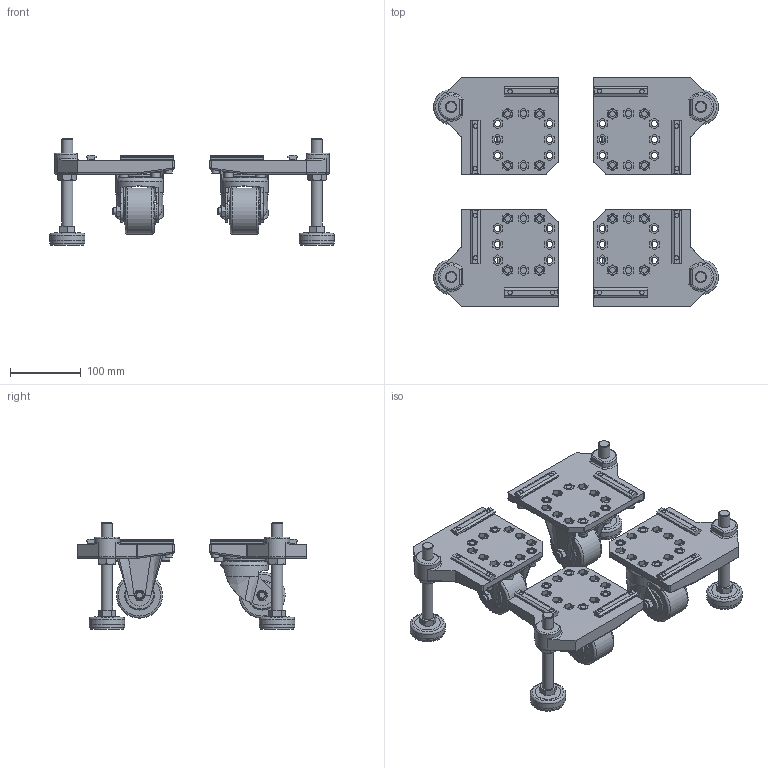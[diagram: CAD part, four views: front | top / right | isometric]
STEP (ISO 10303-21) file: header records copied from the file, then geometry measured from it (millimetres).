
FILE_DESCRIPTION(('STEP AP214'),'1');
FILE_NAME('ASFKB-M16_L150.stp','2023-07-03T02:14:40',(' '),(' '),'Spatial InterOp 3D',' ',' ');
FILE_SCHEMA(('AUTOMOTIVE_DESIGN { 1 0 10303 214 1 1 1 1 }'));
Length unit declared in the file: millimetre
Products named in the file (155): ASFKB-M16_1/4; NFM6-P60; t3M6PW; M6SW; ねじ: 穴付き - M6.0 x 20.0; ねじ: 穴付き - M8.0 x 16.0; M8PW; M8SW; CA65-K; CA65-Fﾎﾞﾃﾞｨｰ; CA65車輪; M8NT; APDC_M16R; AJ1650L150; M16ﾅｯﾄ; ASFKB-M16_L150; APDC_M16L; ASFFB-M16_1/4; CA65-F; CA65Fﾌﾟﾚｰﾄ
Assembly tree (154 placements, depth 4):
  ASFKB-M16_L150
    ASFKB-M16_1/4
      NFM6-P60
      t3M6PW
      M6SW
      ねじ: 穴付き - M6.0 x 20.0
      t3M6PW
      M6SW
      ねじ: 穴付き - M6.0 x 20.0
      NFM6-P60
      t3M6PW
      M6SW
      ねじ: 穴付き - M6.0 x 20.0
      t3M6PW
      M6SW
      ねじ: 穴付き - M6.0 x 20.0
      ねじ: 穴付き - M8.0 x 16.0
      ねじ: 穴付き - M8.0 x 16.0
      ねじ: 穴付き - M8.0 x 16.0
      ねじ: 穴付き - M8.0 x 16.0
      M8PW
      M8PW
      M8PW
      M8PW
      M8SW
      M8SW
      M8SW
      M8SW
      CA65-K
        CA65-Fﾎﾞﾃﾞｨｰ
        CA65車輪
      M8NT
      M8NT
      M8NT
      M8NT
      APDC_M16R
      AJ1650L150
        AJ1650L150
        M16ﾅｯﾄ
    ASFKB-M16_1/4
      NFM6-P60
      t3M6PW
      M6SW
      ねじ: 穴付き - M6.0 x 20.0
      t3M6PW
      M6SW
      ねじ: 穴付き - M6.0 x 20.0
      NFM6-P60
      t3M6PW
      M6SW
      ねじ: 穴付き - M6.0 x 20.0
      t3M6PW
      M6SW
      ねじ: 穴付き - M6.0 x 20.0
      ねじ: 穴付き - M8.0 x 16.0
      ねじ: 穴付き - M8.0 x 16.0
      ねじ: 穴付き - M8.0 x 16.0
      ねじ: 穴付き - M8.0 x 16.0
      M8PW
      M8PW
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Bounding box: 402 x 324 x 150 mm (x, y, z)
Volume: 2070655.1 mm3; surface area: 551832.4 mm2
Topology: 144 solids, 144 shells, 2214 faces, 5086 edges, 3310 vertices
Faces by surface type: plane 1410, cylinder 532, cone 112, torus 76, bspline 64, sphere 12, offset 8
Full cylindrical faces by diameter (mm): 6 x32, 6.5 x40, 8 x16, 8.5 x64, 9.87 x16, 10 x4, 12.8 x16, 12.85 x16, 16 x12, 17.8 x16, 20 x8, 22 x4, 36 x4, 40 x2, 46.6 x4, 49.6 x4, 50 x4, 58 x2, 60.6 x2, 65 x4, 67 x2
Entity records: 88147 total; most frequent: CARTESIAN_POINT 18442, DIRECTION 10172, ORIENTED_EDGE 9132, EDGE_CURVE 4566, AXIS2_PLACEMENT_3D 3699, VERTEX_POINT 3204, EDGE_LOOP 3102, LINE 2774
